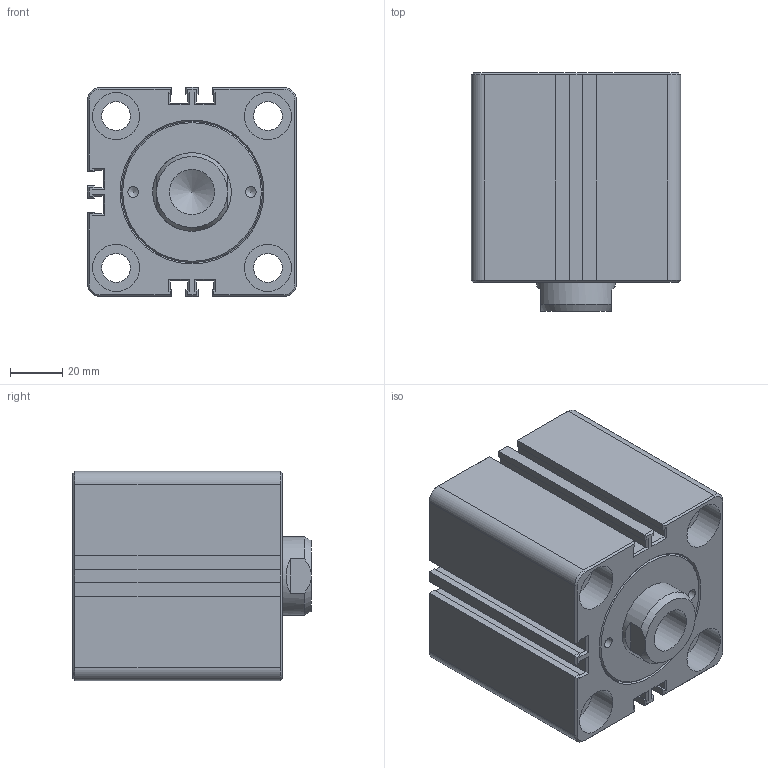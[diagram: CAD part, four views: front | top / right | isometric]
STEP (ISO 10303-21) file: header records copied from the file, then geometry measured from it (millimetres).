
FILE_DESCRIPTION(/* description */ ('Unknown'),/* implementation_level */ '2;1');
FILE_NAME(/* name */ 'HTM70-SD50X20N',/* time_stamp */ '2022-08-31T02:48:28+08:00',/* author */ ('Unknown'),/* organization */ ('Unknown'),/* preprocessor_version */ 'ST-DEVELOPER v16.7',/* originating_system */ 'DEX',/* authorisation */ $);
FILE_SCHEMA (('AUTOMOTIVE_DESIGN {1 0 10303 214 3 1 1}'));
Length unit declared in the file: millimetre
Products named in the file (1): HTM70-SD50X20N
Bounding box: 80 x 91 x 80 mm (x, y, z)
Volume: 445978.2 mm3; surface area: 59755.8 mm2
Topology: 1 solids, 1 shells, 235 faces, 542 edges, 323 vertices
Faces by surface type: plane 176, cone 24, cylinder 23, bspline 12
Full cylindrical faces by diameter (mm): 4.1 x2, 6 x1, 11 x4, 12.301 x2, 17.294 x1, 18 x8, 30 x1
Entity records: 8001 total; most frequent: CARTESIAN_POINT 1285, ORIENTED_EDGE 1002, DIRECTION 992, EDGE_CURVE 501, LINE 390, VECTOR 390, VERTEX_POINT 312, AXIS2_PLACEMENT_3D 301
